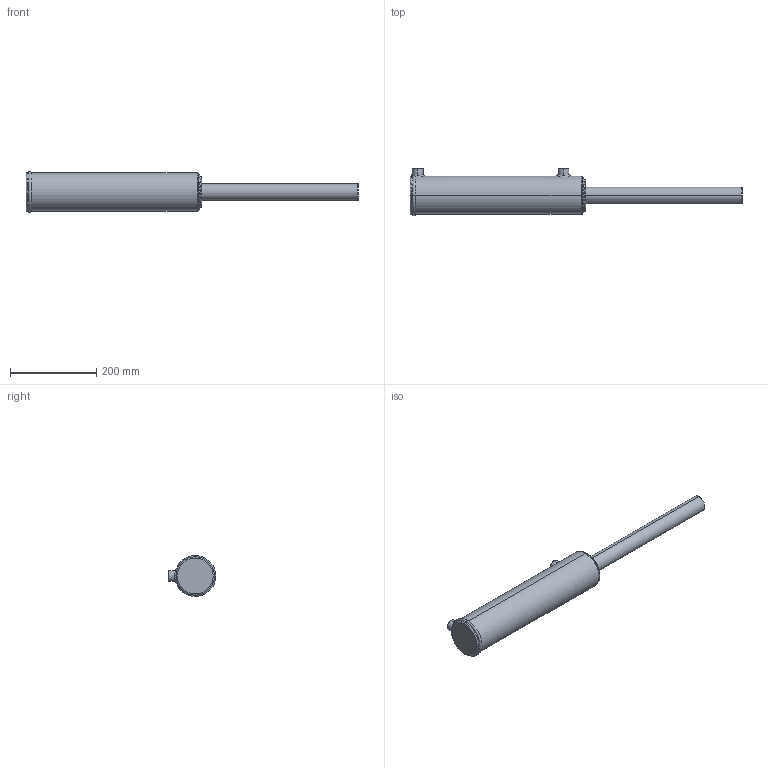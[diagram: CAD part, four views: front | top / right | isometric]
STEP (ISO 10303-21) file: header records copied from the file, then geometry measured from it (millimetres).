
FILE_DESCRIPTION (( 'STEP AP203' ), '1' );
FILE_NAME ('BL300150x305 (12) extended.STEP', '2014-11-23T22:42:16', ( '' ), ( '' ), 'SwSTEP 2.0', 'SolidWorks 2014', '' );
FILE_SCHEMA (( 'CONFIG_CONTROL_DESIGN' ));
Length unit declared in the file: millimetre
Products named in the file (3): BL body 3_3x12; Spare_3x12; BL300150x305 (12) extended
Assembly tree (2 placements, depth 2):
  BL300150x305 (12) extended
    BL body 3_3x12
    Spare_3x12
Bounding box: 768 x 109.9 x 94.9 mm (x, y, z)
Volume: 2752498.7 mm3; surface area: 217857.7 mm2
Topology: 2 solids, 2 shells, 88 faces, 205 edges, 126 vertices
Faces by surface type: cylinder 32, plane 20, torus 17, bspline 11, cone 8
Entity records: 5992 total; most frequent: CARTESIAN_POINT 3745, DIRECTION 420, ORIENTED_EDGE 402, EDGE_CURVE 201, AXIS2_PLACEMENT_3D 181, VERTEX_POINT 126, EDGE_LOOP 101, CIRCLE 99
